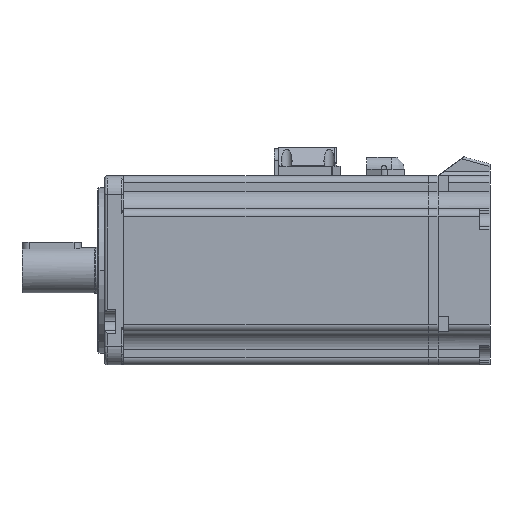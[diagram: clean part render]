
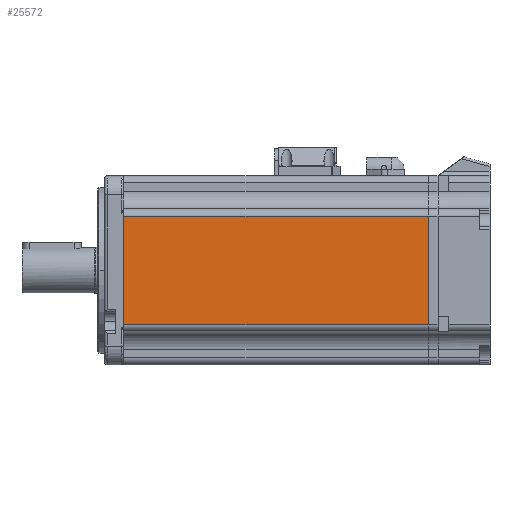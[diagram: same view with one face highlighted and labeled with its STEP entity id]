
A CAD part, left-side view. The second image highlights one B-rep face of the part: STEP entity #25572.
In plain terms, the highlighted planar face has unit normal (-1, 0, 0).
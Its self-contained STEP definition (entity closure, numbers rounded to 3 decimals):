
#745 = CARTESIAN_POINT ( 'NONE',  ( -40., 0., -40. ) ) ;
#1654 = VERTEX_POINT ( 'NONE', #2678 ) ;
#2678 = CARTESIAN_POINT ( 'NONE',  ( -40., 0., -23. ) ) ;
#4264 = EDGE_LOOP ( 'NONE', ( #8222, #7064, #13544, #23196 ) ) ;
#4404 = CARTESIAN_POINT ( 'NONE',  ( -40., 129., -40. ) ) ;
#7064 = ORIENTED_EDGE ( 'NONE', *, *, #27134, .T. ) ;
#7271 = DIRECTION ( 'NONE',  ( 0., 0., -1. ) ) ;
#8222 = ORIENTED_EDGE ( 'NONE', *, *, #18229, .F. ) ;
#8746 = EDGE_CURVE ( 'NONE', #1654, #16173, #18900, .T. ) ;
#8974 = CARTESIAN_POINT ( 'NONE',  ( -40., 129., 23. ) ) ;
#9969 = LINE ( 'NONE', #26128, #28538 ) ;
#10319 = DIRECTION ( 'NONE',  ( 0., 1., 0. ) ) ;
#11040 = VECTOR ( 'NONE', #11363, 1000. ) ;
#11363 = DIRECTION ( 'NONE',  ( 0., 0., 1. ) ) ;
#12716 = CARTESIAN_POINT ( 'NONE',  ( -40., 0., 23. ) ) ;
#13544 = ORIENTED_EDGE ( 'NONE', *, *, #8746, .T. ) ;
#14557 = EDGE_CURVE ( 'NONE', #16173, #15418, #9969, .T. ) ;
#15418 = VERTEX_POINT ( 'NONE', #8974 ) ;
#16173 = VERTEX_POINT ( 'NONE', #12716 ) ;
#18128 = CARTESIAN_POINT ( 'NONE',  ( -40., 0., -23. ) ) ;
#18229 = EDGE_CURVE ( 'NONE', #30992, #15418, #26416, .T. ) ;
#18600 = VECTOR ( 'NONE', #22992, 1000. ) ;
#18900 = LINE ( 'NONE', #745, #11040 ) ;
#19627 = VECTOR ( 'NONE', #20787, 1000. ) ;
#20787 = DIRECTION ( 'NONE',  ( 0., -1., 0. ) ) ;
#22992 = DIRECTION ( 'NONE',  ( 0., 0., 1. ) ) ;
#23116 = DIRECTION ( 'NONE',  ( 1., 0., 0. ) ) ;
#23196 = ORIENTED_EDGE ( 'NONE', *, *, #14557, .T. ) ;
#25348 = CARTESIAN_POINT ( 'NONE',  ( -40., 129., -23. ) ) ;
#25516 = PLANE ( 'NONE',  #27150 ) ;
#25572 = ADVANCED_FACE ( 'NONE', ( #33062 ), #25516, .F. ) ;
#26128 = CARTESIAN_POINT ( 'NONE',  ( -40., 129., 23. ) ) ;
#26416 = LINE ( 'NONE', #33423, #18600 ) ;
#27134 = EDGE_CURVE ( 'NONE', #30992, #1654, #28241, .T. ) ;
#27150 = AXIS2_PLACEMENT_3D ( 'NONE', #4404, #23116, #7271 ) ;
#28241 = LINE ( 'NONE', #18128, #19627 ) ;
#28538 = VECTOR ( 'NONE', #10319, 1000. ) ;
#30992 = VERTEX_POINT ( 'NONE', #25348 ) ;
#33062 = FACE_OUTER_BOUND ( 'NONE', #4264, .T. ) ;
#33423 = CARTESIAN_POINT ( 'NONE',  ( -40., 129., -40. ) ) ;
